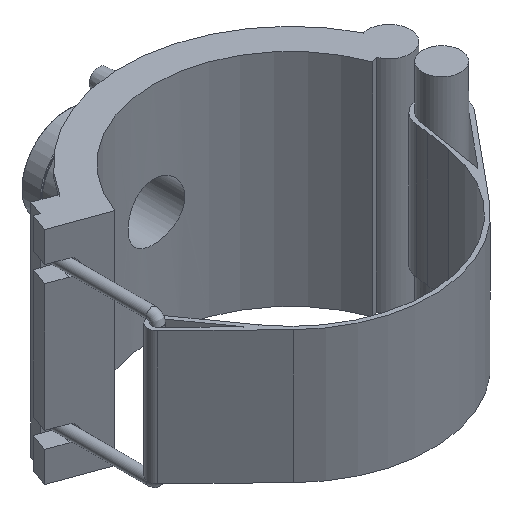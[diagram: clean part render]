
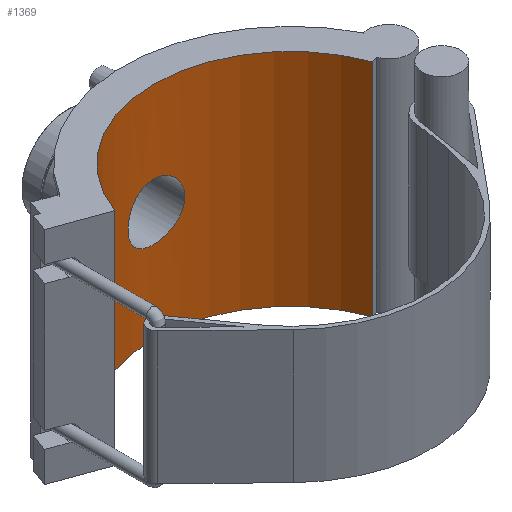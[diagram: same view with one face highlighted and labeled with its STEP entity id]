
A CAD part, isometric view. The second image highlights one B-rep face of the part: STEP entity #1369.
In plain terms, the highlighted cylindrical face has radius 109.35 mm (diameter 218.7 mm), a partial arc.
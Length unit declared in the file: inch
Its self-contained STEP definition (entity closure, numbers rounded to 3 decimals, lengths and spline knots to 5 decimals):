
#27=B_SPLINE_CURVE_WITH_KNOTS('',3,(#2424,#2425,#2426,#2427,#2428,#2429,
#2430,#2431,#2432,#2433,#2434,#2435,#2436,#2437,#2438,#2439,#2440,#2441,
#2442,#2443,#2444,#2445,#2446,#2447,#2448,#2449,#2450,#2451,#2452,#2453,
#2454,#2455,#2456,#2457,#2458,#2459,#2460,#2461,#2462,#2463,#2464,#2465,
#2466,#2467,#2468,#2469,#2470,#2471,#2472,#2473,#2474,#2475,#2476,#2477,
#2478,#2479,#2480,#2481,#2482,#2483,#2484,#2485,#2486,#2487,#2488,#2489),
 .UNSPECIFIED.,.T.,.F.,(4,2,2,2,2,2,2,2,2,2,2,2,2,2,2,2,2,2,2,2,2,2,2,2,
2,2,2,2,2,2,2,2,4),(0.,0.42818,0.85637,1.28455,
1.71273,2.14089,2.56904,2.9972,3.42535,
3.85351,4.28166,4.70982,5.13797,5.56616,
5.99434,6.42252,6.85071,7.27889,7.70707,
8.13525,8.56344,8.99159,9.41975,9.8479,
10.27606,10.70421,11.13237,11.56052,11.98868,
12.41686,12.84505,13.27323,13.70141),
 .UNSPECIFIED.);
#52=CYLINDRICAL_SURFACE('',#1517,4.30512);
#75=FACE_BOUND('',#295,.T.);
#119=CIRCLE('',#1483,4.30512);
#130=CIRCLE('',#1515,4.30512);
#205=FACE_OUTER_BOUND('',#294,.T.);
#294=EDGE_LOOP('',(#1181,#1182,#1183,#1184));
#295=EDGE_LOOP('',(#1185));
#374=LINE('',#2141,#488);
#426=LINE('',#2421,#540);
#488=VECTOR('',#1714,0.3937);
#540=VECTOR('',#1868,0.3937);
#619=VERTEX_POINT('',#2138);
#620=VERTEX_POINT('',#2140);
#641=VERTEX_POINT('',#2210);
#657=VERTEX_POINT('',#2417);
#658=VERTEX_POINT('',#2423);
#764=EDGE_CURVE('',#620,#619,#374,.T.);
#800=EDGE_CURVE('',#620,#641,#119,.T.);
#837=EDGE_CURVE('',#657,#619,#130,.T.);
#838=EDGE_CURVE('',#657,#641,#426,.T.);
#839=EDGE_CURVE('',#658,#658,#27,.T.);
#1181=ORIENTED_EDGE('',*,*,#838,.T.);
#1182=ORIENTED_EDGE('',*,*,#800,.F.);
#1183=ORIENTED_EDGE('',*,*,#764,.T.);
#1184=ORIENTED_EDGE('',*,*,#837,.F.);
#1185=ORIENTED_EDGE('',*,*,#839,.T.);
#1369=ADVANCED_FACE('',(#205,#75),#52,.F.);
#1483=AXIS2_PLACEMENT_3D('',#2211,#1780,#1781);
#1515=AXIS2_PLACEMENT_3D('',#2419,#1864,#1865);
#1517=AXIS2_PLACEMENT_3D('',#2422,#1869,#1870);
#1714=DIRECTION('',(0.,0.,-1.));
#1780=DIRECTION('center_axis',(0.,0.,-1.));
#1781=DIRECTION('ref_axis',(-1.,0.,0.));
#1864=DIRECTION('center_axis',(0.,0.,1.));
#1865=DIRECTION('ref_axis',(-1.,0.,0.));
#1868=DIRECTION('',(0.,0.,1.));
#1869=DIRECTION('center_axis',(0.,0.,1.));
#1870=DIRECTION('ref_axis',(-1.,0.,0.));
#2138=CARTESIAN_POINT('',(-4.04549,1.47244,-3.465));
#2140=CARTESIAN_POINT('',(-4.04549,1.47244,3.465));
#2141=CARTESIAN_POINT('',(-4.04549,1.47244,0.));
#2210=CARTESIAN_POINT('',(4.04549,1.47244,3.465));
#2211=CARTESIAN_POINT('Origin',(0.,0.,3.465));
#2417=CARTESIAN_POINT('',(4.04549,1.47244,-3.465));
#2419=CARTESIAN_POINT('Origin',(0.,0.,-3.465));
#2421=CARTESIAN_POINT('',(4.04549,1.47244,0.));
#2422=CARTESIAN_POINT('Origin',(0.,0.,0.));
#2423=CARTESIAN_POINT('',(0.89222,4.21165,0.));
#2424=CARTESIAN_POINT('Ctrl Pts',(0.89222,4.21165,0.));
#2425=CARTESIAN_POINT('Ctrl Pts',(0.89222,4.21165,-0.05619));
#2426=CARTESIAN_POINT('Ctrl Pts',(0.88683,4.2128,-0.11425));
#2427=CARTESIAN_POINT('Ctrl Pts',(0.86417,4.21751,-0.22963));
#2428=CARTESIAN_POINT('Ctrl Pts',(0.84691,4.22106,-0.28696));
#2429=CARTESIAN_POINT('Ctrl Pts',(0.80133,4.22995,-0.39682));
#2430=CARTESIAN_POINT('Ctrl Pts',(0.77298,4.23529,-0.44945));
#2431=CARTESIAN_POINT('Ctrl Pts',(0.70752,4.24671,-0.54673));
#2432=CARTESIAN_POINT('Ctrl Pts',(0.67041,4.25279,-0.59138));
#2433=CARTESIAN_POINT('Ctrl Pts',(0.59138,4.26449,-0.67041));
#2434=CARTESIAN_POINT('Ctrl Pts',(0.54673,4.27054,-0.70752));
#2435=CARTESIAN_POINT('Ctrl Pts',(0.44945,4.28187,-0.77297));
#2436=CARTESIAN_POINT('Ctrl Pts',(0.39682,4.28714,-0.80133));
#2437=CARTESIAN_POINT('Ctrl Pts',(0.28696,4.2959,-0.84691));
#2438=CARTESIAN_POINT('Ctrl Pts',(0.22963,4.29938,-0.86417));
#2439=CARTESIAN_POINT('Ctrl Pts',(0.11424,4.30399,-0.88683));
#2440=CARTESIAN_POINT('Ctrl Pts',(0.05619,4.30512,-0.89222));
#2441=CARTESIAN_POINT('Ctrl Pts',(-0.05619,4.30512,
-0.89222));
#2442=CARTESIAN_POINT('Ctrl Pts',(-0.11424,4.30399,-0.88683));
#2443=CARTESIAN_POINT('Ctrl Pts',(-0.22963,4.29938,-0.86417));
#2444=CARTESIAN_POINT('Ctrl Pts',(-0.28696,4.2959,-0.84691));
#2445=CARTESIAN_POINT('Ctrl Pts',(-0.39682,4.28714,-0.80133));
#2446=CARTESIAN_POINT('Ctrl Pts',(-0.44945,4.28187,-0.77297));
#2447=CARTESIAN_POINT('Ctrl Pts',(-0.54673,4.27054,-0.70752));
#2448=CARTESIAN_POINT('Ctrl Pts',(-0.59138,4.26449,-0.67041));
#2449=CARTESIAN_POINT('Ctrl Pts',(-0.67041,4.25279,-0.59138));
#2450=CARTESIAN_POINT('Ctrl Pts',(-0.70752,4.24671,-0.54673));
#2451=CARTESIAN_POINT('Ctrl Pts',(-0.77298,4.23529,-0.44945));
#2452=CARTESIAN_POINT('Ctrl Pts',(-0.80133,4.22995,-0.39682));
#2453=CARTESIAN_POINT('Ctrl Pts',(-0.84691,4.22106,-0.28696));
#2454=CARTESIAN_POINT('Ctrl Pts',(-0.86417,4.21751,-0.22963));
#2455=CARTESIAN_POINT('Ctrl Pts',(-0.88683,4.2128,-0.11425));
#2456=CARTESIAN_POINT('Ctrl Pts',(-0.89222,4.21165,-0.05619));
#2457=CARTESIAN_POINT('Ctrl Pts',(-0.89222,4.21165,0.05619));
#2458=CARTESIAN_POINT('Ctrl Pts',(-0.88683,4.2128,0.11425));
#2459=CARTESIAN_POINT('Ctrl Pts',(-0.86417,4.21751,0.22963));
#2460=CARTESIAN_POINT('Ctrl Pts',(-0.84691,4.22106,0.28696));
#2461=CARTESIAN_POINT('Ctrl Pts',(-0.80133,4.22995,0.39682));
#2462=CARTESIAN_POINT('Ctrl Pts',(-0.77298,4.23529,0.44945));
#2463=CARTESIAN_POINT('Ctrl Pts',(-0.70752,4.24671,0.54673));
#2464=CARTESIAN_POINT('Ctrl Pts',(-0.67041,4.25279,0.59138));
#2465=CARTESIAN_POINT('Ctrl Pts',(-0.59138,4.26449,0.67041));
#2466=CARTESIAN_POINT('Ctrl Pts',(-0.54673,4.27054,0.70752));
#2467=CARTESIAN_POINT('Ctrl Pts',(-0.44945,4.28187,0.77297));
#2468=CARTESIAN_POINT('Ctrl Pts',(-0.39682,4.28714,0.80133));
#2469=CARTESIAN_POINT('Ctrl Pts',(-0.28696,4.2959,0.84691));
#2470=CARTESIAN_POINT('Ctrl Pts',(-0.22963,4.29938,0.86417));
#2471=CARTESIAN_POINT('Ctrl Pts',(-0.11424,4.30399,0.88683));
#2472=CARTESIAN_POINT('Ctrl Pts',(-0.05619,4.30512,0.89222));
#2473=CARTESIAN_POINT('Ctrl Pts',(0.05619,4.30512,0.89222));
#2474=CARTESIAN_POINT('Ctrl Pts',(0.11424,4.30399,0.88683));
#2475=CARTESIAN_POINT('Ctrl Pts',(0.22963,4.29938,0.86417));
#2476=CARTESIAN_POINT('Ctrl Pts',(0.28696,4.2959,0.84691));
#2477=CARTESIAN_POINT('Ctrl Pts',(0.39682,4.28714,0.80133));
#2478=CARTESIAN_POINT('Ctrl Pts',(0.44945,4.28187,0.77297));
#2479=CARTESIAN_POINT('Ctrl Pts',(0.54673,4.27054,0.70752));
#2480=CARTESIAN_POINT('Ctrl Pts',(0.59138,4.26449,0.67041));
#2481=CARTESIAN_POINT('Ctrl Pts',(0.67041,4.25279,0.59138));
#2482=CARTESIAN_POINT('Ctrl Pts',(0.70752,4.24671,0.54673));
#2483=CARTESIAN_POINT('Ctrl Pts',(0.77298,4.23529,0.44945));
#2484=CARTESIAN_POINT('Ctrl Pts',(0.80133,4.22995,0.39682));
#2485=CARTESIAN_POINT('Ctrl Pts',(0.84691,4.22106,0.28696));
#2486=CARTESIAN_POINT('Ctrl Pts',(0.86417,4.21751,0.22963));
#2487=CARTESIAN_POINT('Ctrl Pts',(0.88683,4.2128,0.11425));
#2488=CARTESIAN_POINT('Ctrl Pts',(0.89222,4.21165,0.05619));
#2489=CARTESIAN_POINT('Ctrl Pts',(0.89222,4.21165,0.));
